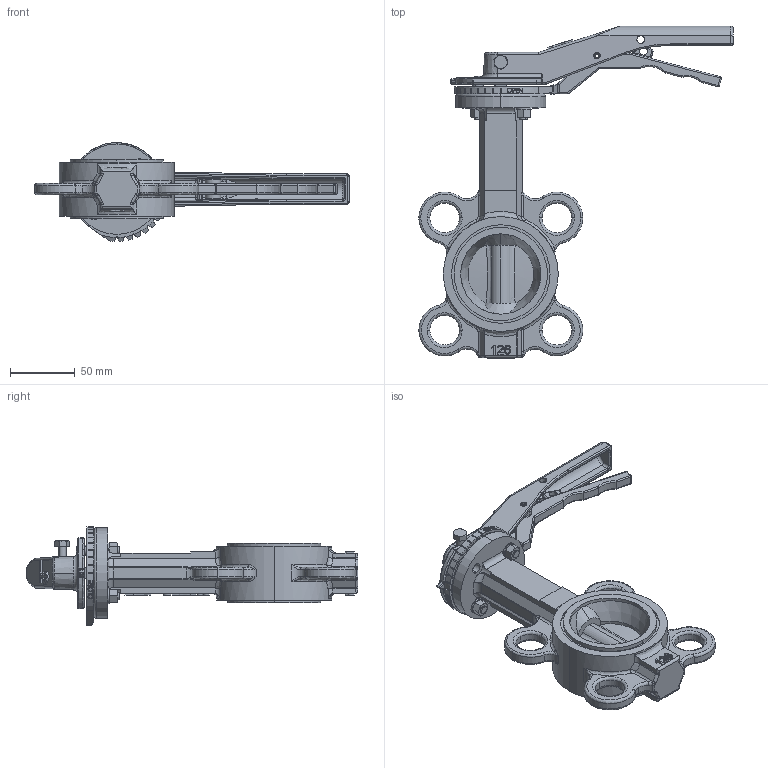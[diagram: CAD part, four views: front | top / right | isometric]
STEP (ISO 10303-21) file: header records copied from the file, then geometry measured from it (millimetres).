
FILE_DESCRIPTION (( 'STEP AP203' ), '1' );
FILE_NAME ('VPE-02 DN 50.STEP', '2016-09-28T13:25:52', ( '' ), ( '' ), 'SwSTEP 2.0', 'SolidWorks 2014', '' );
FILE_SCHEMA (( 'CONFIG_CONTROL_DESIGN' ));
Products named in the file (1): VPE-02 DN 50
Bounding box: 243.49 x 257.2 x 76.45 mm (x, y, z)
Volume: 430427.5 mm3; surface area: 131499.1 mm2
Topology: 15 solids, 15 shells, 1485 faces, 3778 edges, 2317 vertices
Faces by surface type: plane 462, cylinder 440, bspline 366, cone 101, torus 74, sphere 42
Entity records: 65087 total; most frequent: CARTESIAN_POINT 32274, ORIENTED_EDGE 7422, DIRECTION 6040, EDGE_CURVE 3711, VERTEX_POINT 2311, AXIS2_PLACEMENT_3D 2225, EDGE_LOOP 1592, LINE 1590
